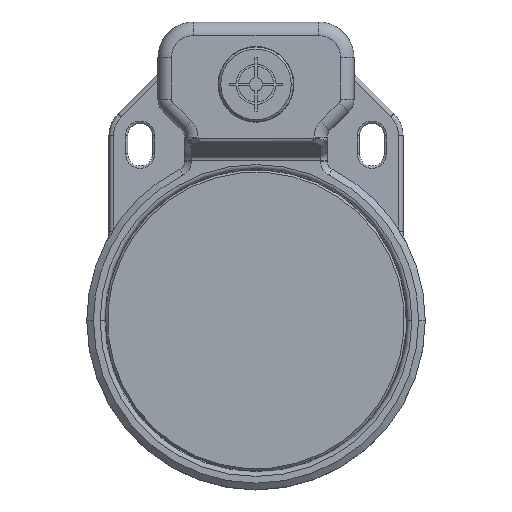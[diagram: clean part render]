
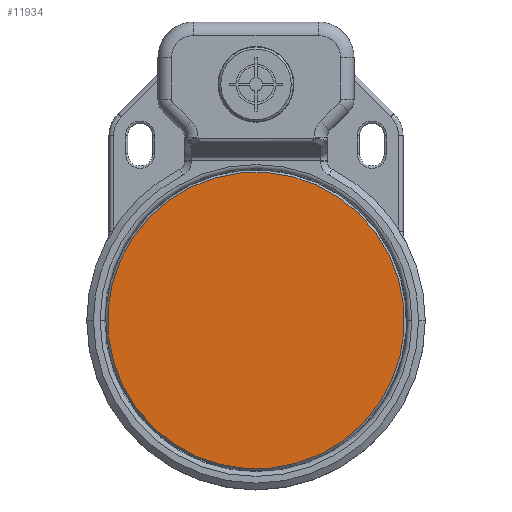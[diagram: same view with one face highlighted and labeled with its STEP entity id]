
A CAD part, top view. The second image highlights one B-rep face of the part: STEP entity #11934.
In plain terms, the highlighted planar face has unit normal (0, 0, 1).
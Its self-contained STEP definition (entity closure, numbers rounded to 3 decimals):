
#252 = EDGE_CURVE ( 'NONE', #13443, #16952, #4169, .T. ) ;
#456 = CIRCLE ( 'NONE', #10828, 33.3 ) ;
#1461 = ORIENTED_EDGE ( 'NONE', *, *, #252, .T. ) ;
#1484 = AXIS2_PLACEMENT_3D ( 'NONE', #18583, #1723, #18763 ) ;
#1723 = DIRECTION ( 'NONE',  ( 0., 0., 1. ) ) ;
#1844 = PLANE ( 'NONE',  #5767 ) ;
#4169 = CIRCLE ( 'NONE', #1484, 33.3 ) ;
#4628 = DIRECTION ( 'NONE',  ( 0., 0., 1. ) ) ;
#4770 = DIRECTION ( 'NONE',  ( 0., 0., 1. ) ) ;
#5767 = AXIS2_PLACEMENT_3D ( 'NONE', #13400, #4770, #14864 ) ;
#5916 = CARTESIAN_POINT ( 'NONE',  ( 18.619, 27.608, 28.5 ) ) ;
#10828 = AXIS2_PLACEMENT_3D ( 'NONE', #13247, #4628, #14710 ) ;
#11934 = ADVANCED_FACE ( 'NONE', ( #12035 ), #1844, .T. ) ;
#12035 = FACE_OUTER_BOUND ( 'NONE', #16161, .T. ) ;
#12441 = EDGE_CURVE ( 'NONE', #16952, #13443, #456, .T. ) ;
#13045 = CARTESIAN_POINT ( 'NONE',  ( -18.619, -27.608, 28.5 ) ) ;
#13247 = CARTESIAN_POINT ( 'NONE',  ( 0., 0., 28.5 ) ) ;
#13400 = CARTESIAN_POINT ( 'NONE',  ( 0., 0., 28.5 ) ) ;
#13443 = VERTEX_POINT ( 'NONE', #5916 ) ;
#14710 = DIRECTION ( 'NONE',  ( -0.559, -0.829, 0. ) ) ;
#14864 = DIRECTION ( 'NONE',  ( -0.559, -0.829, 0. ) ) ;
#15337 = ORIENTED_EDGE ( 'NONE', *, *, #12441, .T. ) ;
#16161 = EDGE_LOOP ( 'NONE', ( #1461, #15337 ) ) ;
#16952 = VERTEX_POINT ( 'NONE', #13045 ) ;
#18583 = CARTESIAN_POINT ( 'NONE',  ( 0., 0., 28.5 ) ) ;
#18763 = DIRECTION ( 'NONE',  ( -0.559, -0.829, 0. ) ) ;
